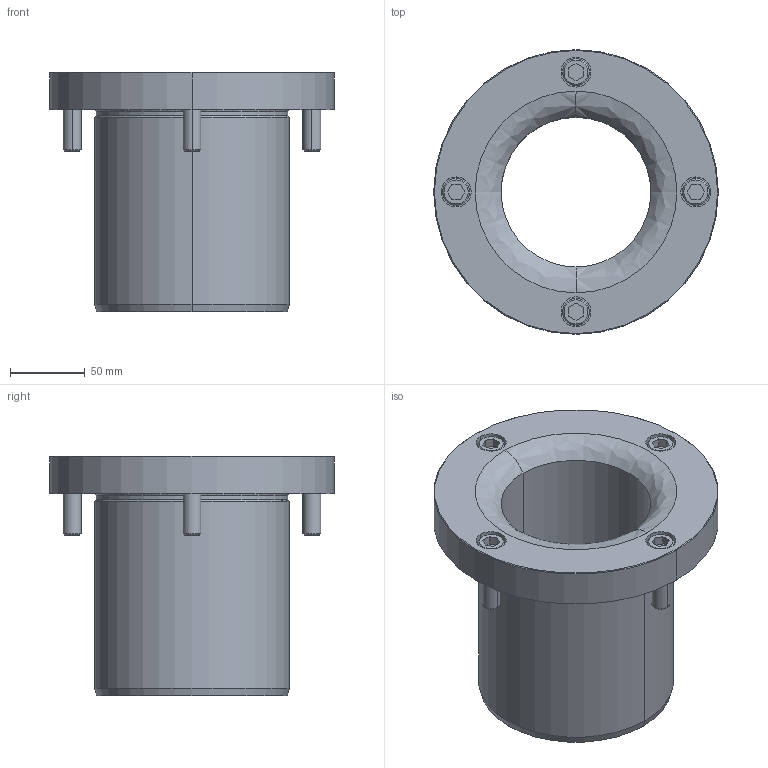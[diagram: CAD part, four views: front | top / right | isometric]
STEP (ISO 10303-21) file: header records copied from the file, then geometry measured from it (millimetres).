
FILE_DESCRIPTION((''),'2;1');
FILE_NAME('','2010-09-07T13:57:31+09:00',('misumi'),(''),'M/STEP i/f 1R2-14','CADmeister v5.1','');
FILE_SCHEMA(('AUTOMOTIVE_DESIGN'));
Length unit declared in the file: millimetre
Products named in the file (1): HGBF100
Bounding box: 190 x 190 x 160 mm (x, y, z)
Volume: 1227349.5 mm3; surface area: 174274.6 mm2
Topology: 5 solids, 5 shells, 115 faces, 250 edges, 158 vertices
Faces by surface type: plane 47, cylinder 40, cone 20, revolution 8
Entity records: 3339 total; most frequent: DIRECTION 608, CARTESIAN_POINT 528, ORIENTED_EDGE 492, EDGE_CURVE 246, AXIS2_PLACEMENT_3D 234, VERTEX_POINT 154, EDGE_LOOP 138, LINE 132
